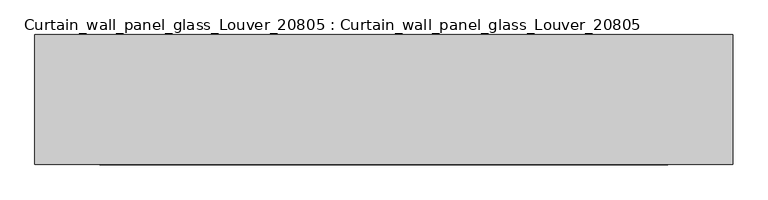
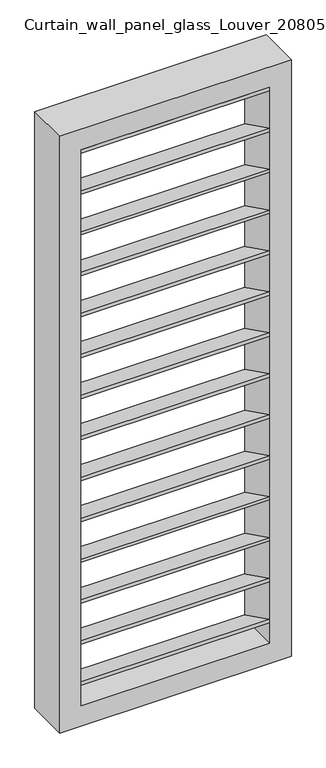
"""IFC4 building model written with IfcOpenShell, lengths in millimetres: plate geometry, Curtain_wall_panel_glass_Louver_20805 : Curtain_wall_panel_glass_Louver_20805."""

from ifc_helpers import new_model, si_unit, frame, origin, place, context, project, spatial, polyline, outline, extrude, source, transform, mapped, element, save


def curtain_wall_panel_glass_louver_20805_curtain_wall_panel_84bde982(model_context):
    return source(origin(), model_context, "Body", "SweptSolid", [
        extrude(outline(polyline([(-200.0, 199.3849981), (-200.0, 216.1349309), (0.0, 116.7499328), (0.0, 100.0), (-200.0, 199.3849981)])), frame((-437.2499999, 0.0, 0.0), z_axis=(1.0, 0.0, 0.0), x_axis=(0.0, 1.0, 0.0)), (0.0, 0.0, 1.0), 874.4999999),
        extrude(outline(polyline([(-200.0, 2808.2500672), (-200.0, 2825.0), (0.0, 2725.6150019), (0.0, 2708.8650691), (-200.0, 2808.2500672)])), frame((-437.2499999, 0.0, 0.0), z_axis=(1.0, 0.0, 0.0), x_axis=(0.0, 1.0, 0.0)), (0.0, 0.0, 1.0), 874.4999999),
        extrude(outline(polyline([(-200.0, 400.0669265), (-200.0, 416.8168593), (0.0, 317.4318612), (0.0, 300.6819284), (-200.0, 400.0669265)])), frame((-437.2499999, 0.0, 0.0), z_axis=(1.0, 0.0, 0.0), x_axis=(0.0, 1.0, 0.0)), (0.0, 0.0, 1.0), 874.4999999),
        extrude(outline(polyline([(-200.0, 600.7488549), (-200.0, 617.4987877), (0.0, 518.1137896), (0.0, 501.3638568), (-200.0, 600.7488549)])), frame((-437.2499999, 0.0, 0.0), z_axis=(1.0, 0.0, 0.0), x_axis=(0.0, 1.0, 0.0)), (0.0, 0.0, 1.0), 874.4999999),
        extrude(outline(polyline([(-200.0, 801.4307833), (-200.0, 818.1807161), (0.0, 718.795718), (0.0, 702.0457852), (-200.0, 801.4307833)])), frame((-437.2499999, 0.0, 0.0), z_axis=(1.0, 0.0, 0.0), x_axis=(0.0, 1.0, 0.0)), (0.0, 0.0, 1.0), 874.4999999),
        extrude(outline(polyline([(-200.0, 1002.1127117), (-200.0, 1018.8626445), (0.0, 919.4776464), (0.0, 902.7277136), (-200.0, 1002.1127117)])), frame((-437.2499999, 0.0, 0.0), z_axis=(1.0, 0.0, 0.0), x_axis=(0.0, 1.0, 0.0)), (0.0, 0.0, 1.0), 874.4999999),
        extrude(outline(polyline([(-200.0, 1202.79464), (-200.0, 1219.5445729), (0.0, 1120.1595748), (0.0, 1103.4096419), (-200.0, 1202.79464)])), frame((-437.2499999, 0.0, 0.0), z_axis=(1.0, 0.0, 0.0), x_axis=(0.0, 1.0, 0.0)), (0.0, 0.0, 1.0), 874.4999999),
        extrude(outline(polyline([(-200.0, 1403.4765684), (-200.0, 1420.2265013), (0.0, 1320.8415032), (0.0, 1304.0915703), (-200.0, 1403.4765684)])), frame((-437.2499999, 0.0, 0.0), z_axis=(1.0, 0.0, 0.0), x_axis=(0.0, 1.0, 0.0)), (0.0, 0.0, 1.0), 874.4999999),
        extrude(outline(polyline([(-200.0, 1604.1584968), (-200.0, 1620.9084297), (0.0, 1521.5234316), (0.0, 1504.7734987), (-200.0, 1604.1584968)])), frame((-437.2499999, 0.0, 0.0), z_axis=(1.0, 0.0, 0.0), x_axis=(0.0, 1.0, 0.0)), (0.0, 0.0, 1.0), 874.4999999),
        extrude(outline(polyline([(-200.0, 1804.8404252), (-200.0, 1821.5903581), (0.0, 1722.20536), (0.0, 1705.4554271), (-200.0, 1804.8404252)])), frame((-437.2499999, 0.0, 0.0), z_axis=(1.0, 0.0, 0.0), x_axis=(0.0, 1.0, 0.0)), (0.0, 0.0, 1.0), 874.4999999),
        extrude(outline(polyline([(-200.0, 2005.5223536), (-200.0, 2022.2722864), (0.0, 1922.8872883), (0.0, 1906.1373555), (-200.0, 2005.5223536)])), frame((-437.2499999, 0.0, 0.0), z_axis=(1.0, 0.0, 0.0), x_axis=(0.0, 1.0, 0.0)), (0.0, 0.0, 1.0), 874.4999999),
        extrude(outline(polyline([(-200.0, 2206.204282), (-200.0, 2222.9542148), (0.0, 2123.5692167), (0.0, 2106.8192839), (-200.0, 2206.204282)])), frame((-437.2499999, 0.0, 0.0), z_axis=(1.0, 0.0, 0.0), x_axis=(0.0, 1.0, 0.0)), (0.0, 0.0, 1.0), 874.4999999),
        extrude(outline(polyline([(-200.0, 2406.8862104), (-200.0, 2423.6361432), (0.0, 2324.2511451), (0.0, 2307.5012123), (-200.0, 2406.8862104)])), frame((-437.2499999, 0.0, 0.0), z_axis=(1.0, 0.0, 0.0), x_axis=(0.0, 1.0, 0.0)), (0.0, 0.0, 1.0), 874.4999999),
        extrude(outline(polyline([(-200.0, 2607.5681388), (-200.0, 2624.3180716), (0.0, 2524.9330735), (0.0, 2508.1831407), (-200.0, 2607.5681388)])), frame((-437.2499999, 0.0, 0.0), z_axis=(1.0, 0.0, 0.0), x_axis=(0.0, 1.0, 0.0)), (0.0, 0.0, 1.0), 874.4999999),
        extrude(outline(polyline([(2925.0, -537.2499999), (0.0, -537.2499999), (0.0, 537.2499999), (2925.0, 537.2499999), (2925.0, -537.2499999)]), holes=[polyline([(2825.0, -437.2499999), (2825.0, 437.2499999), (100.0, 437.2499999), (100.0, -437.2499999), (2825.0, -437.2499999)])]), frame((0.0, -200.0, 0.0), z_axis=(0.0, 1.0, 0.0), x_axis=(0.0, 0.0, 1.0)), (0.0, 0.0, 1.0), 200.0),
    ])


if __name__ == "__main__":
    model = new_model("IFC4")
    model_context = context("Model", 3, world=origin())
    ifc_project = project(units=[si_unit("LENGTHUNIT", "METRE", prefix="MILLI")], contexts=[model_context])
    site = spatial("IfcSite", under=ifc_project)
    building = spatial("IfcBuilding", under=site)
    placement = place(None, origin())
    curtain_wall_panel_glass_louver_20805_curtain_wall_panel_shape = curtain_wall_panel_glass_louver_20805_curtain_wall_panel_84bde982(model_context)
    element("IfcPlate", 1, ObjectType="Curtain_wall_panel_glass_Louver_20805 : Curtain_wall_panel_glass_Louver_20805", at=placement, inside=building, context=model_context, shape_type="MappedRepresentation", body=[
        mapped(curtain_wall_panel_glass_louver_20805_curtain_wall_panel_shape, transform((0.0, 0.0, 0.0), x_axis=(1.0, 0.0, 0.0), y_axis=(0.0, 1.0, 0.0), z_axis=(0.0, 0.0, 1.0))),
    ])
    save(model, "model.ifc")
